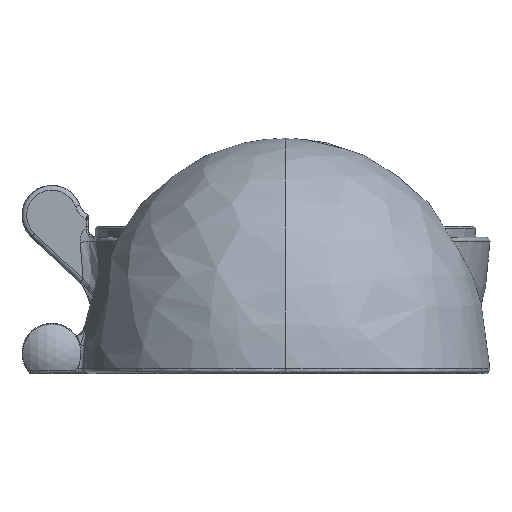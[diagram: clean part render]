
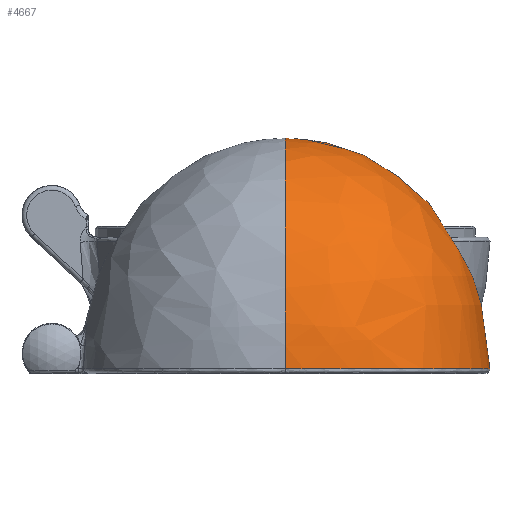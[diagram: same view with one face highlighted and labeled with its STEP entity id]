
A CAD part, left-side view. The second image highlights one B-rep face of the part: STEP entity #4667.
In plain terms, the highlighted free-form (B-spline) face has degree [3, 2] with [7, 5] control points.
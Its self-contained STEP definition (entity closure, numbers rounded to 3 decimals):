
#419=B_SPLINE_CURVE_WITH_KNOTS('',3,(#22732,#22733,#22734,#22735,#22736,
#22737,#22738,#22739,#22740,#22741),.UNSPECIFIED.,.F.,.F.,(4,1,1,1,1,1,
1,4),(0.,0.966,1.933,2.899,3.865,
4.832,5.798,6.764),.UNSPECIFIED.);
#786=(
BOUNDED_CURVE()
B_SPLINE_CURVE(3,(#23182,#23183,#23184,#23185),.UNSPECIFIED.,.F.,.F.)
B_SPLINE_CURVE_WITH_KNOTS((4,4),(0.,0.984),.UNSPECIFIED.)
CURVE()
GEOMETRIC_REPRESENTATION_ITEM()
RATIONAL_B_SPLINE_CURVE((1.,1.,1.,1.))
REPRESENTATION_ITEM('')
);
#787=(
BOUNDED_CURVE()
B_SPLINE_CURVE(3,(#23186,#23187,#23188,#23189),.UNSPECIFIED.,.F.,.F.)
B_SPLINE_CURVE_WITH_KNOTS((4,4),(0.,0.984),.UNSPECIFIED.)
CURVE()
GEOMETRIC_REPRESENTATION_ITEM()
RATIONAL_B_SPLINE_CURVE((1.,1.,1.,1.))
REPRESENTATION_ITEM('')
);
#836=(
BOUNDED_SURFACE()
B_SPLINE_SURFACE(3,2,((#23241,#23242,#23243,#23244,#23245),(#23246,#23247,
#23248,#23249,#23250),(#23251,#23252,#23253,#23254,#23255),(#23256,#23257,
#23258,#23259,#23260),(#23261,#23262,#23263,#23264,#23265),(#23266,#23267,
#23268,#23269,#23270),(#23271,#23272,#23273,#23274,#23275)),
 .UNSPECIFIED.,.F.,.F.,.F.)
B_SPLINE_SURFACE_WITH_KNOTS((4,3,4),(3,2,3),(0.,0.992,1.033),
(0.,1.571,3.142),.UNSPECIFIED.)
GEOMETRIC_REPRESENTATION_ITEM()
RATIONAL_B_SPLINE_SURFACE(((1.,0.707,1.,0.707,1.),
(1.,0.707,1.,0.707,1.),(1.,0.707,1.,
0.707,1.),(1.,0.707,1.,0.707,1.),(1.,
0.707,1.,0.707,1.),(1.,0.707,1.,0.707,
1.),(1.,0.707,1.,0.707,1.)))
REPRESENTATION_ITEM('')
SURFACE()
);
#1128=FACE_OUTER_BOUND('',#1434,.T.);
#1434=EDGE_LOOP('',(#4299,#4300,#4301));
#2162=VERTEX_POINT('',#22672);
#2163=VERTEX_POINT('',#22730);
#2175=VERTEX_POINT('',#23181);
#2859=EDGE_CURVE('',#2163,#2162,#419,.T.);
#2882=EDGE_CURVE('',#2175,#2162,#786,.T.);
#2883=EDGE_CURVE('',#2175,#2163,#787,.T.);
#4299=ORIENTED_EDGE('',*,*,#2859,.F.);
#4300=ORIENTED_EDGE('',*,*,#2883,.F.);
#4301=ORIENTED_EDGE('',*,*,#2882,.T.);
#4667=ADVANCED_FACE('',(#1128),#836,.F.);
#22672=CARTESIAN_POINT('',(-67.177,79.551,-22.903));
#22730=CARTESIAN_POINT('',(-23.112,79.551,-22.903));
#22732=CARTESIAN_POINT('Ctrl Pts',(-23.112,79.551,-22.903));
#22733=CARTESIAN_POINT('Ctrl Pts',(-23.112,76.255,-22.903));
#22734=CARTESIAN_POINT('Ctrl Pts',(-24.616,69.666,-22.903));
#22735=CARTESIAN_POINT('Ctrl Pts',(-30.937,61.737,-22.903));
#22736=CARTESIAN_POINT('Ctrl Pts',(-40.074,57.334,-22.903));
#22737=CARTESIAN_POINT('Ctrl Pts',(-50.214,57.339,-22.903));
#22738=CARTESIAN_POINT('Ctrl Pts',(-59.352,61.734,-22.903));
#22739=CARTESIAN_POINT('Ctrl Pts',(-65.672,69.666,-22.903));
#22740=CARTESIAN_POINT('Ctrl Pts',(-67.177,76.255,-22.903));
#22741=CARTESIAN_POINT('Ctrl Pts',(-67.177,79.551,-22.903));
#23181=CARTESIAN_POINT('',(-45.144,79.551,1.913));
#23182=CARTESIAN_POINT('Ctrl Pts',(-45.144,79.551,1.913));
#23183=CARTESIAN_POINT('Ctrl Pts',(-57.219,79.551,1.913));
#23184=CARTESIAN_POINT('Ctrl Pts',(-66.782,79.551,-8.281));
#23185=CARTESIAN_POINT('Ctrl Pts',(-67.177,79.551,-22.903));
#23186=CARTESIAN_POINT('Ctrl Pts',(-45.144,79.551,1.913));
#23187=CARTESIAN_POINT('Ctrl Pts',(-33.07,79.551,1.913));
#23188=CARTESIAN_POINT('Ctrl Pts',(-23.506,79.551,-8.281));
#23189=CARTESIAN_POINT('Ctrl Pts',(-23.112,79.551,-22.903));
#23241=CARTESIAN_POINT('Ctrl Pts',(-45.144,79.551,1.913));
#23242=CARTESIAN_POINT('Ctrl Pts',(-45.144,79.551,1.913));
#23243=CARTESIAN_POINT('Ctrl Pts',(-45.144,79.551,1.913));
#23244=CARTESIAN_POINT('Ctrl Pts',(-45.144,79.551,1.913));
#23245=CARTESIAN_POINT('Ctrl Pts',(-45.144,79.551,1.913));
#23246=CARTESIAN_POINT('Ctrl Pts',(-32.978,79.551,1.913));
#23247=CARTESIAN_POINT('Ctrl Pts',(-32.978,67.384,1.913));
#23248=CARTESIAN_POINT('Ctrl Pts',(-45.144,67.384,1.913));
#23249=CARTESIAN_POINT('Ctrl Pts',(-57.311,67.384,1.913));
#23250=CARTESIAN_POINT('Ctrl Pts',(-57.311,79.551,1.913));
#23251=CARTESIAN_POINT('Ctrl Pts',(-23.36,79.551,-8.438));
#23252=CARTESIAN_POINT('Ctrl Pts',(-23.36,57.767,-8.438));
#23253=CARTESIAN_POINT('Ctrl Pts',(-45.144,57.767,-8.438));
#23254=CARTESIAN_POINT('Ctrl Pts',(-66.929,57.767,-8.438));
#23255=CARTESIAN_POINT('Ctrl Pts',(-66.929,79.551,-8.438));
#23256=CARTESIAN_POINT('Ctrl Pts',(-23.105,79.551,-23.24));
#23257=CARTESIAN_POINT('Ctrl Pts',(-23.105,57.511,-23.24));
#23258=CARTESIAN_POINT('Ctrl Pts',(-45.144,57.511,-23.24));
#23259=CARTESIAN_POINT('Ctrl Pts',(-67.184,57.511,-23.24));
#23260=CARTESIAN_POINT('Ctrl Pts',(-67.184,79.551,-23.24));
#23261=CARTESIAN_POINT('Ctrl Pts',(-23.094,79.551,-23.85));
#23262=CARTESIAN_POINT('Ctrl Pts',(-23.094,57.501,-23.85));
#23263=CARTESIAN_POINT('Ctrl Pts',(-45.144,57.501,-23.85));
#23264=CARTESIAN_POINT('Ctrl Pts',(-67.195,57.501,-23.85));
#23265=CARTESIAN_POINT('Ctrl Pts',(-67.195,79.551,-23.85));
#23266=CARTESIAN_POINT('Ctrl Pts',(-23.084,79.551,-24.461));
#23267=CARTESIAN_POINT('Ctrl Pts',(-23.084,57.49,-24.461));
#23268=CARTESIAN_POINT('Ctrl Pts',(-45.144,57.49,-24.461));
#23269=CARTESIAN_POINT('Ctrl Pts',(-67.205,57.49,-24.461));
#23270=CARTESIAN_POINT('Ctrl Pts',(-67.205,79.551,-24.461));
#23271=CARTESIAN_POINT('Ctrl Pts',(-23.073,79.551,-25.071));
#23272=CARTESIAN_POINT('Ctrl Pts',(-23.073,57.48,-25.071));
#23273=CARTESIAN_POINT('Ctrl Pts',(-45.144,57.48,-25.071));
#23274=CARTESIAN_POINT('Ctrl Pts',(-67.216,57.48,-25.071));
#23275=CARTESIAN_POINT('Ctrl Pts',(-67.216,79.551,-25.071));
